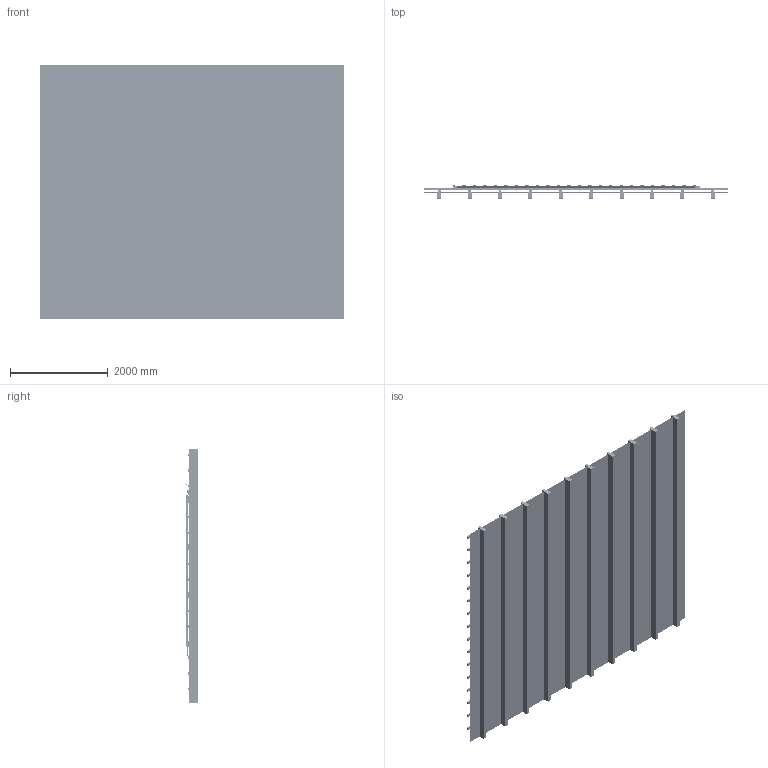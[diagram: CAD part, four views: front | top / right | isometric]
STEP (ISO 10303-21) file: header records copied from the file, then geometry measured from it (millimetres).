
FILE_DESCRIPTION(/* description */ ('Montagezeichnung Solrif N'),/* implementation_level */ '2;1');
FILE_NAME(/* name */ 'O:\S_Sonnenenergie\Entwicklung\40 Produkte\Bilder und CAD-Daten für Kunden\Solrif\01 CAD Datensätze\1593x1025 PV-Modul CS Wismar M54\H106968 Montagezeichnung 1593x 1025.stp',/* time_stamp */ '2021-02-21T12:04:58+01:00',/* author */ ('rog2545'),/* organization */ (''),/* preprocessor_version */ 'ST-DEVELOPER v17',/* originating_system */ 'Autodesk Inventor 2019',/* authorisation */ '');
FILE_SCHEMA (('AUTOMOTIVE_DESIGN { 1 0 10303 214 3 1 1 }'));
Products named in the file (27): H106968; H106970; H106974; H106972; H106971; H106973; H106973_1; H106973_2; H106973_3; H106973_4; H106973_5; H107427; H107072; H107426; H107425; H106979; H106850; H100680; H100647; H100706; H101219; H106978; H106981; H100118-01; H100120; H019841; H019837
Assembly tree (122 placements, depth 3):
  H106968
    H106970
      H106974
      H106972  x10
      H106971  x10
      H106973_5  x11
      H106973
      H106973_1
      H106973_2
      H106973_3
      H106973_4
    H107427
    H107072  x9
    H019841  x27
    H107426
    H107425  x4
    H106979
    H019837  x21
    H106850
    H100680
    H100647
    H100706  x2
    H101219  x3
    H106978  x3
    H106981  x3
    H100118-01  x3
    H100120  x3
Bounding box: 6230 x 261.03 x 5219 mm (x, y, z)
Volume: 1049851845.2 mm3; surface area: 166224785.8 mm2
Topology: 343 solids, 343 shells, 12965 faces, 34155 edges, 21336 vertices
Faces by surface type: cylinder 5874, plane 5763, cone 498, torus 420, bspline 314, sphere 96
Full cylindrical faces by diameter (mm): 3.3 x18, 4.5 x96, 4.8 x18, 5 x4, 5.459 x96, 5.557 x96
Entity records: 73154 total; most frequent: CARTESIAN_POINT 17590, ORIENTED_EDGE 11204, DIRECTION 10744, EDGE_CURVE 5602, LINE 4208, VECTOR 4208, VERTEX_POINT 3553, AXIS2_PLACEMENT_3D 3268
